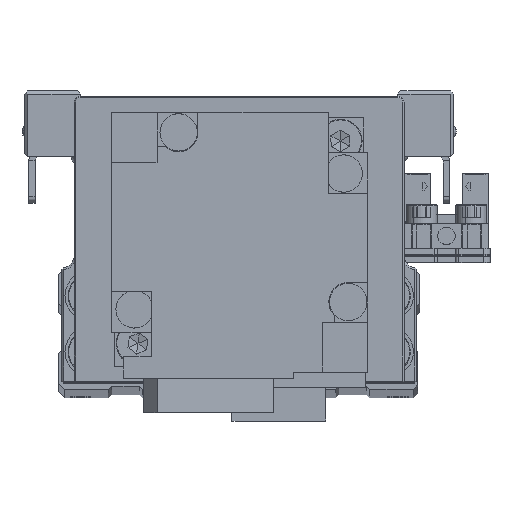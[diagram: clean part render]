
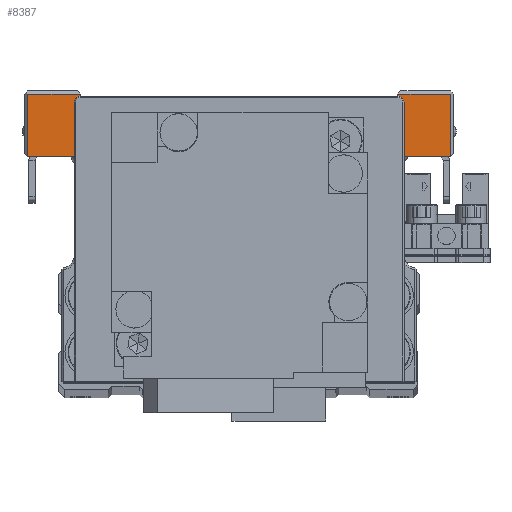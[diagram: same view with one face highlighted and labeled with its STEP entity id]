
A CAD part, top view. The second image highlights one B-rep face of the part: STEP entity #8387.
In plain terms, the highlighted planar face has unit normal (0, 0, 1) as drawn and (1, 0, 0) by its records, which use the part's own axes.
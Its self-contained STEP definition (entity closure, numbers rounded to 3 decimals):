
#3 = VECTOR ( 'NONE', #18946, 1000. ) ;
#509 = VERTEX_POINT ( 'NONE', #3332 ) ;
#951 = AXIS2_PLACEMENT_3D ( 'NONE', #12988, #24379, #35767 ) ;
#1028 = EDGE_CURVE ( 'NONE', #11575, #25753, #17855, .T. ) ;
#1206 = ORIENTED_EDGE ( 'NONE', *, *, #12577, .F. ) ;
#1419 = VECTOR ( 'NONE', #6742, 1000. ) ;
#1508 = EDGE_LOOP ( 'NONE', ( #16754, #31181, #7616, #18466, #29726, #10087, #32254, #23806, #23298, #8075, #34204, #27579, #1206, #20367 ) ) ;
#1610 = PLANE ( 'NONE',  #951 ) ;
#2039 = VERTEX_POINT ( 'NONE', #24603 ) ;
#2086 = DIRECTION ( 'NONE',  ( 0., 0., 1. ) ) ;
#2394 = DIRECTION ( 'NONE',  ( 0., -1., 0. ) ) ;
#2526 = CARTESIAN_POINT ( 'NONE',  ( 25.5, 5., 34. ) ) ;
#2666 = LINE ( 'NONE', #14052, #4671 ) ;
#3332 = CARTESIAN_POINT ( 'NONE',  ( 25.5, -5.7, 16.5 ) ) ;
#3671 = DIRECTION ( 'NONE',  ( 0., 0., -1. ) ) ;
#4090 = VERTEX_POINT ( 'NONE', #6033 ) ;
#4187 = CARTESIAN_POINT ( 'NONE',  ( 25.5, 10.5, -25.5 ) ) ;
#4377 = EDGE_CURVE ( 'NONE', #36835, #23940, #16282, .T. ) ;
#4671 = VECTOR ( 'NONE', #25436, 1000. ) ;
#6033 = CARTESIAN_POINT ( 'NONE',  ( 25.5, 15., 25.5 ) ) ;
#6211 = CARTESIAN_POINT ( 'NONE',  ( 25.5, 15., -25.5 ) ) ;
#6494 = EDGE_CURVE ( 'NONE', #25753, #36835, #24236, .T. ) ;
#6742 = DIRECTION ( 'NONE',  ( 0., -0.707, -0.707 ) ) ;
#7490 = CARTESIAN_POINT ( 'NONE',  ( 25.5, -5.7, -16.5 ) ) ;
#7560 = CARTESIAN_POINT ( 'NONE',  ( 25.5, 5., -34.5 ) ) ;
#7616 = ORIENTED_EDGE ( 'NONE', *, *, #15966, .T. ) ;
#8075 = ORIENTED_EDGE ( 'NONE', *, *, #1028, .T. ) ;
#8387 = ADVANCED_FACE ( 'NONE', ( #27190 ), #1610, .F. ) ;
#9203 = EDGE_CURVE ( 'NONE', #2039, #16218, #10411, .T. ) ;
#9298 = DIRECTION ( 'NONE',  ( 0., -1., 0. ) ) ;
#9366 = CARTESIAN_POINT ( 'NONE',  ( 25.5, 15., -34. ) ) ;
#9488 = VECTOR ( 'NONE', #11164, 1000. ) ;
#9863 = VECTOR ( 'NONE', #3671, 1000. ) ;
#10047 = DIRECTION ( 'NONE',  ( 0., 1., 0. ) ) ;
#10073 = VERTEX_POINT ( 'NONE', #29945 ) ;
#10087 = ORIENTED_EDGE ( 'NONE', *, *, #27070, .T. ) ;
#10411 = LINE ( 'NONE', #21813, #10507 ) ;
#10507 = VECTOR ( 'NONE', #33188, 1000. ) ;
#10889 = VERTEX_POINT ( 'NONE', #15636 ) ;
#11152 = VECTOR ( 'NONE', #2086, 1000. ) ;
#11164 = DIRECTION ( 'NONE',  ( 0., 1., 0. ) ) ;
#11519 = LINE ( 'NONE', #22926, #17243 ) ;
#11575 = VERTEX_POINT ( 'NONE', #23357 ) ;
#12057 = CARTESIAN_POINT ( 'NONE',  ( 25.5, 5., 16.5 ) ) ;
#12577 = EDGE_CURVE ( 'NONE', #14959, #23940, #29754, .T. ) ;
#12988 = CARTESIAN_POINT ( 'NONE',  ( 25.5, 5., -16.5 ) ) ;
#13223 = LINE ( 'NONE', #24609, #13598 ) ;
#13565 = VECTOR ( 'NONE', #2394, 1000. ) ;
#13567 = EDGE_CURVE ( 'NONE', #4090, #33444, #13223, .T. ) ;
#13598 = VECTOR ( 'NONE', #35983, 1000. ) ;
#13889 = DIRECTION ( 'NONE',  ( 0., -1., 0. ) ) ;
#14052 = CARTESIAN_POINT ( 'NONE',  ( 25.5, -6., 16.5 ) ) ;
#14665 = CARTESIAN_POINT ( 'NONE',  ( 25.5, 15., 34. ) ) ;
#14959 = VERTEX_POINT ( 'NONE', #27785 ) ;
#15002 = EDGE_CURVE ( 'NONE', #27736, #509, #16585, .T. ) ;
#15582 = DIRECTION ( 'NONE',  ( 0., 1., 0. ) ) ;
#15636 = CARTESIAN_POINT ( 'NONE',  ( 25.5, 5., 34. ) ) ;
#15966 = EDGE_CURVE ( 'NONE', #33444, #10889, #28101, .T. ) ;
#16218 = VERTEX_POINT ( 'NONE', #7490 ) ;
#16282 = LINE ( 'NONE', #27664, #11152 ) ;
#16585 = LINE ( 'NONE', #27970, #13565 ) ;
#16754 = ORIENTED_EDGE ( 'NONE', *, *, #32810, .T. ) ;
#17243 = VECTOR ( 'NONE', #34303, 1000. ) ;
#17855 = LINE ( 'NONE', #29241, #9863 ) ;
#18466 = ORIENTED_EDGE ( 'NONE', *, *, #33664, .T. ) ;
#18946 = DIRECTION ( 'NONE',  ( 0., 0., -1. ) ) ;
#20367 = ORIENTED_EDGE ( 'NONE', *, *, #32860, .F. ) ;
#20937 = LINE ( 'NONE', #32313, #1419 ) ;
#21775 = VECTOR ( 'NONE', #15582, 1000. ) ;
#21813 = CARTESIAN_POINT ( 'NONE',  ( 25.5, -6., -16.2 ) ) ;
#22926 = CARTESIAN_POINT ( 'NONE',  ( 25.5, 10.5, -25.5 ) ) ;
#23298 = ORIENTED_EDGE ( 'NONE', *, *, #32968, .F. ) ;
#23357 = CARTESIAN_POINT ( 'NONE',  ( 25.5, 5., -16.5 ) ) ;
#23473 = LINE ( 'NONE', #34855, #29775 ) ;
#23806 = ORIENTED_EDGE ( 'NONE', *, *, #9203, .T. ) ;
#23940 = VERTEX_POINT ( 'NONE', #6211 ) ;
#24236 = LINE ( 'NONE', #35614, #26957 ) ;
#24379 = DIRECTION ( 'NONE',  ( -1., 0., 0. ) ) ;
#24603 = CARTESIAN_POINT ( 'NONE',  ( 25.5, -6., -16.2 ) ) ;
#24609 = CARTESIAN_POINT ( 'NONE',  ( 25.5, 15., 34. ) ) ;
#25353 = LINE ( 'NONE', #36751, #9488 ) ;
#25436 = DIRECTION ( 'NONE',  ( 0., 0., 1. ) ) ;
#25753 = VERTEX_POINT ( 'NONE', #26515 ) ;
#26515 = CARTESIAN_POINT ( 'NONE',  ( 25.5, 5., -34. ) ) ;
#26820 = CARTESIAN_POINT ( 'NONE',  ( 25.5, -6., 16.2 ) ) ;
#26957 = VECTOR ( 'NONE', #10047, 1000. ) ;
#27070 = EDGE_CURVE ( 'NONE', #509, #27808, #20937, .T. ) ;
#27190 = FACE_OUTER_BOUND ( 'NONE', #1508, .T. ) ;
#27579 = ORIENTED_EDGE ( 'NONE', *, *, #4377, .T. ) ;
#27664 = CARTESIAN_POINT ( 'NONE',  ( 25.5, 15., -25.5 ) ) ;
#27736 = VERTEX_POINT ( 'NONE', #12057 ) ;
#27785 = CARTESIAN_POINT ( 'NONE',  ( 25.5, 10.5, -25.5 ) ) ;
#27808 = VERTEX_POINT ( 'NONE', #26820 ) ;
#27970 = CARTESIAN_POINT ( 'NONE',  ( 25.5, 5., 16.5 ) ) ;
#28101 = LINE ( 'NONE', #2526, #29266 ) ;
#29241 = CARTESIAN_POINT ( 'NONE',  ( 25.5, 5., -34.5 ) ) ;
#29266 = VECTOR ( 'NONE', #13889, 1000. ) ;
#29726 = ORIENTED_EDGE ( 'NONE', *, *, #15002, .T. ) ;
#29754 = LINE ( 'NONE', #4187, #21775 ) ;
#29775 = VECTOR ( 'NONE', #9298, 1000. ) ;
#29945 = CARTESIAN_POINT ( 'NONE',  ( 25.5, 10.5, 25.5 ) ) ;
#31172 = EDGE_CURVE ( 'NONE', #2039, #27808, #2666, .T. ) ;
#31181 = ORIENTED_EDGE ( 'NONE', *, *, #13567, .T. ) ;
#32254 = ORIENTED_EDGE ( 'NONE', *, *, #31172, .F. ) ;
#32313 = CARTESIAN_POINT ( 'NONE',  ( 25.5, -6., 16.2 ) ) ;
#32810 = EDGE_CURVE ( 'NONE', #10073, #4090, #25353, .T. ) ;
#32860 = EDGE_CURVE ( 'NONE', #10073, #14959, #11519, .T. ) ;
#32968 = EDGE_CURVE ( 'NONE', #11575, #16218, #23473, .T. ) ;
#33126 = LINE ( 'NONE', #7560, #3 ) ;
#33188 = DIRECTION ( 'NONE',  ( 0., 0.707, -0.707 ) ) ;
#33444 = VERTEX_POINT ( 'NONE', #14665 ) ;
#33664 = EDGE_CURVE ( 'NONE', #10889, #27736, #33126, .T. ) ;
#34204 = ORIENTED_EDGE ( 'NONE', *, *, #6494, .T. ) ;
#34303 = DIRECTION ( 'NONE',  ( 0., 0., -1. ) ) ;
#34855 = CARTESIAN_POINT ( 'NONE',  ( 25.5, 5., -16.5 ) ) ;
#35614 = CARTESIAN_POINT ( 'NONE',  ( 25.5, 5., -34. ) ) ;
#35767 = DIRECTION ( 'NONE',  ( 0., 0., 1. ) ) ;
#35983 = DIRECTION ( 'NONE',  ( 0., 0., 1. ) ) ;
#36751 = CARTESIAN_POINT ( 'NONE',  ( 25.5, 10.5, 25.5 ) ) ;
#36835 = VERTEX_POINT ( 'NONE', #9366 ) ;
